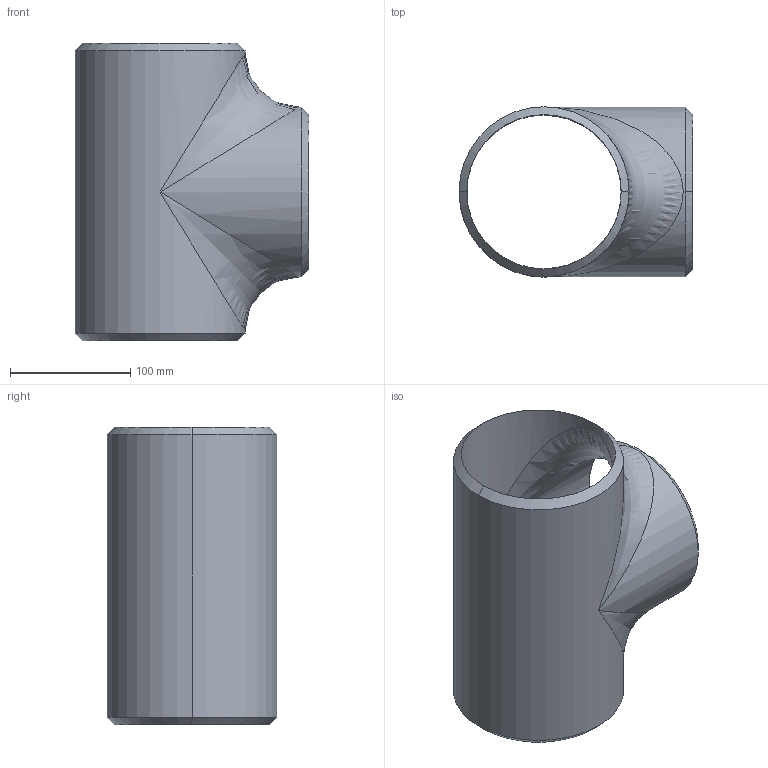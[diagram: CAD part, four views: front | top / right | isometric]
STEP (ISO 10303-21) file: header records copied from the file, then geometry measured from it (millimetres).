
FILE_DESCRIPTION (( 'STEP AP203' ), '1' );
FILE_NAME ('3D_R266_5x40S_173445240.STEP', '2024-08-23T11:16:57', ( '' ), ( '' ), 'SwSTEP 2.0', 'SolidWorks 2024', '' );
FILE_SCHEMA (( 'CONFIG_CONTROL_DESIGN' ));
Length unit declared in the file: millimetre
Products named in the file (1): 3D_R266_5x40S_173445240
Bounding box: 194.45 x 141.3 x 247.6 mm (x, y, z)
Volume: 751115.2 mm3; surface area: 240691.6 mm2
Topology: 1 solids, 1 shells, 21 faces, 58 edges, 30 vertices
Faces by surface type: cylinder 8, cone 6, bspline 4, plane 3
Entity records: 1435 total; most frequent: CARTESIAN_POINT 914, ORIENTED_EDGE 100, DIRECTION 88, EDGE_CURVE 50, AXIS2_PLACEMENT_3D 36, VERTEX_POINT 30, EDGE_LOOP 24, ADVANCED_FACE 21
